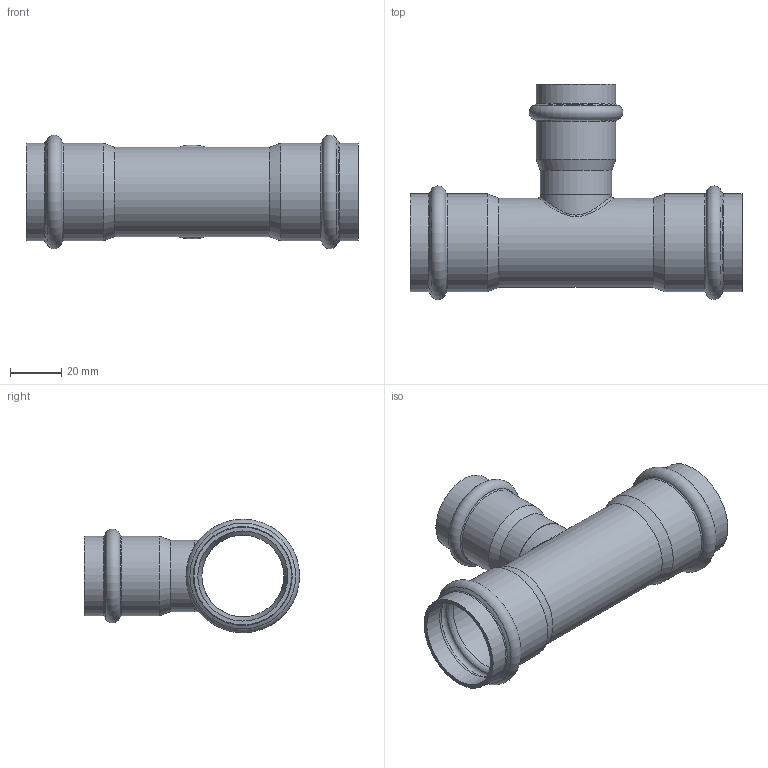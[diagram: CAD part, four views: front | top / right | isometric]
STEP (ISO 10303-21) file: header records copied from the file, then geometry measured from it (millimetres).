
FILE_DESCRIPTION((''),'2;1');
FILE_NAME('G:\Technics\CAD\Bauteile\035\69130352835(2).stp','2008-02-28T09:14:41',('herberg'),(''),'Autodesk Inventor 2008','Autodesk Inventor 2008','');
FILE_SCHEMA(('AUTOMOTIVE_DESIGN { 1 0 10303 214 1 1 1 1 }'));
Length unit declared in the file: millimetre
Products named in the file (3): 69130352835(2); LM_69130352835(1); 6924328HM(1)
Assembly tree (2 placements, depth 2):
  69130352835(2)
    LM_69130352835(1)
    6924328HM(1)
Bounding box: 130 x 84.25 x 44.49 mm (x, y, z)
Volume: 29078.6 mm3; surface area: 39502.6 mm2
Topology: 2 solids, 2 shells, 55 faces, 115 edges, 64 vertices
Faces by surface type: cylinder 18, bspline 13, cone 12, torus 7, plane 5
Full cylindrical faces by diameter (mm): 25 x2, 28 x2, 28.2 x2, 31.2 x2, 32 x1, 35 x1, 35.25 x4, 38.25 x4
Entity records: 3144 total; most frequent: CARTESIAN_POINT 2163, DIRECTION 200, ORIENTED_EDGE 116, EDGE_LOOP 110, AXIS2_PLACEMENT_3D 100, EDGE_CURVE 58, VERTEX_POINT 56, FACE_OUTER_BOUND 55
